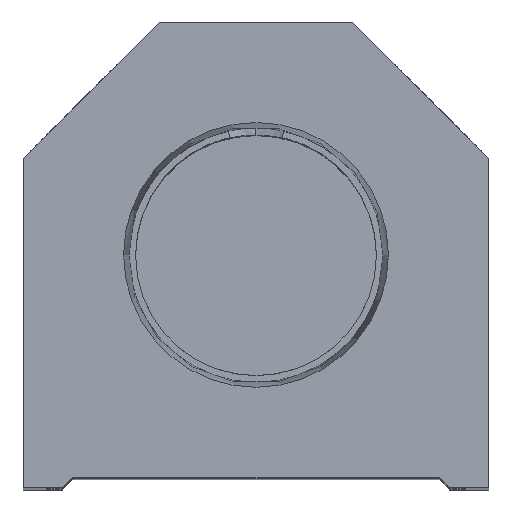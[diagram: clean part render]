
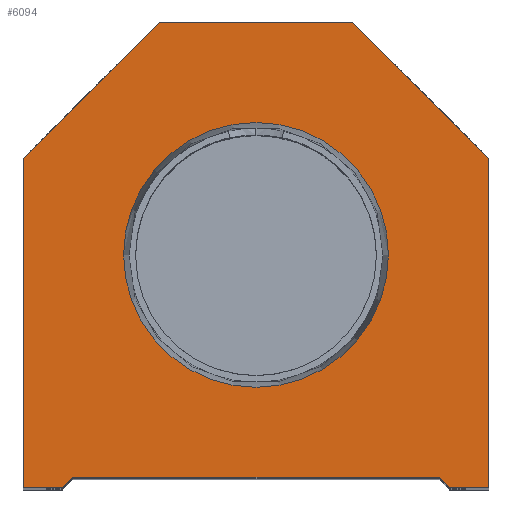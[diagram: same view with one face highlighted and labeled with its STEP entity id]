
A CAD part, top view. The second image highlights one B-rep face of the part: STEP entity #6094.
In plain terms, the highlighted planar face has unit normal (0, 0, 1).
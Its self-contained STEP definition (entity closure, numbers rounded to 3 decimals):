
#63 = CARTESIAN_POINT ( 'NONE',  ( -9.25, 9.25, 0. ) ) ;
#77 = DIRECTION ( 'NONE',  ( 1., 0., 0. ) ) ;
#328 = AXIS2_PLACEMENT_3D ( 'NONE', #2851, #13989, #12378 ) ;
#660 = LINE ( 'NONE', #6131, #2409 ) ;
#1471 = AXIS2_PLACEMENT_3D ( 'NONE', #5581, #15242, #13861 ) ;
#1593 = LINE ( 'NONE', #7046, #4167 ) ;
#1607 = LINE ( 'NONE', #63, #15137 ) ;
#1613 = VERTEX_POINT ( 'NONE', #9915 ) ;
#1962 = VERTEX_POINT ( 'NONE', #3201 ) ;
#1965 = CARTESIAN_POINT ( 'NONE',  ( -22.25, 0., 0. ) ) ;
#2409 = VECTOR ( 'NONE', #3528, 1000. ) ;
#2471 = VERTEX_POINT ( 'NONE', #9883 ) ;
#2851 = CARTESIAN_POINT ( 'NONE',  ( 0., 22.25, 0. ) ) ;
#3201 = CARTESIAN_POINT ( 'NONE',  ( -18.5, 0., 0. ) ) ;
#3223 = CARTESIAN_POINT ( 'NONE',  ( -17.5, 1., 0. ) ) ;
#3412 = CARTESIAN_POINT ( 'NONE',  ( 22.25, 31.5, 0. ) ) ;
#3451 = DIRECTION ( 'NONE',  ( 1., 0., 0. ) ) ;
#3528 = DIRECTION ( 'NONE',  ( -0.707, -0.707, 0. ) ) ;
#3529 = DIRECTION ( 'NONE',  ( 0., 0., 1. ) ) ;
#3749 = CARTESIAN_POINT ( 'NONE',  ( 9.25, 9.25, 0. ) ) ;
#3802 = VERTEX_POINT ( 'NONE', #5560 ) ;
#4167 = VECTOR ( 'NONE', #16693, 1000. ) ;
#4315 = CIRCLE ( 'NONE', #1471, 12.647 ) ;
#4550 = EDGE_CURVE ( 'NONE', #7837, #14365, #8764, .T. ) ;
#5412 = VERTEX_POINT ( 'NONE', #6036 ) ;
#5455 = CIRCLE ( 'NONE', #328, 12.647 ) ;
#5560 = CARTESIAN_POINT ( 'NONE',  ( 18.5, 0., 0. ) ) ;
#5581 = CARTESIAN_POINT ( 'NONE',  ( 0., 22.25, 0. ) ) ;
#5614 = EDGE_LOOP ( 'NONE', ( #15597, #10716 ) ) ;
#5725 = EDGE_CURVE ( 'NONE', #9909, #12762, #12397, .T. ) ;
#5741 = CARTESIAN_POINT ( 'NONE',  ( -17.5, 1., 0. ) ) ;
#5825 = ORIENTED_EDGE ( 'NONE', *, *, #4550, .T. ) ;
#5868 = DIRECTION ( 'NONE',  ( 1., 0., 0. ) ) ;
#6001 = EDGE_CURVE ( 'NONE', #2471, #7837, #13967, .T. ) ;
#6036 = CARTESIAN_POINT ( 'NONE',  ( -22.25, 31.5, 0. ) ) ;
#6094 = ADVANCED_FACE ( 'NONE', ( #9026, #17205 ), #17290, .T. ) ;
#6131 = CARTESIAN_POINT ( 'NONE',  ( -22.25, 31.5, 0. ) ) ;
#6472 = DIRECTION ( 'NONE',  ( -0.707, 0.707, 0. ) ) ;
#6485 = CARTESIAN_POINT ( 'NONE',  ( 0., 0., 0. ) ) ;
#6936 = ORIENTED_EDGE ( 'NONE', *, *, #15476, .T. ) ;
#6965 = DIRECTION ( 'NONE',  ( 0.707, 0.707, 0. ) ) ;
#7023 = ORIENTED_EDGE ( 'NONE', *, *, #7914, .T. ) ;
#7046 = CARTESIAN_POINT ( 'NONE',  ( 17.5, 0., 0. ) ) ;
#7120 = CARTESIAN_POINT ( 'NONE',  ( 22.25, 0., 0. ) ) ;
#7218 = LINE ( 'NONE', #7307, #14798 ) ;
#7307 = CARTESIAN_POINT ( 'NONE',  ( -17.5, 0., 0. ) ) ;
#7837 = VERTEX_POINT ( 'NONE', #3412 ) ;
#7914 = EDGE_CURVE ( 'NONE', #1962, #9909, #1607, .T. ) ;
#8764 = LINE ( 'NONE', #11376, #13406 ) ;
#8957 = CARTESIAN_POINT ( 'NONE',  ( -22.25, 0., 0. ) ) ;
#9001 = CARTESIAN_POINT ( 'NONE',  ( 9.25, 44.5, 0. ) ) ;
#9026 = FACE_BOUND ( 'NONE', #5614, .T. ) ;
#9171 = VECTOR ( 'NONE', #10691, 1000. ) ;
#9304 = VERTEX_POINT ( 'NONE', #8957 ) ;
#9383 = CARTESIAN_POINT ( 'NONE',  ( 17.5, 1., 0. ) ) ;
#9476 = CARTESIAN_POINT ( 'NONE',  ( -12.647, 22.25, 0. ) ) ;
#9599 = VECTOR ( 'NONE', #77, 1000. ) ;
#9838 = CARTESIAN_POINT ( 'NONE',  ( 9.25, 44.5, 0. ) ) ;
#9883 = CARTESIAN_POINT ( 'NONE',  ( 22.25, 0., 0. ) ) ;
#9909 = VERTEX_POINT ( 'NONE', #3223 ) ;
#9915 = CARTESIAN_POINT ( 'NONE',  ( -9.25, 44.5, 0. ) ) ;
#9951 = EDGE_CURVE ( 'NONE', #12762, #3802, #11858, .T. ) ;
#10129 = DIRECTION ( 'NONE',  ( 0., -1., 0. ) ) ;
#10187 = VECTOR ( 'NONE', #12617, 1000. ) ;
#10691 = DIRECTION ( 'NONE',  ( 0.707, -0.707, 0. ) ) ;
#10716 = ORIENTED_EDGE ( 'NONE', *, *, #12783, .F. ) ;
#10820 = ORIENTED_EDGE ( 'NONE', *, *, #13522, .T. ) ;
#11086 = ORIENTED_EDGE ( 'NONE', *, *, #14776, .T. ) ;
#11376 = CARTESIAN_POINT ( 'NONE',  ( 22.25, 31.5, 0. ) ) ;
#11858 = LINE ( 'NONE', #3749, #9171 ) ;
#11862 = LINE ( 'NONE', #1965, #16112 ) ;
#12378 = DIRECTION ( 'NONE',  ( 1., 0., 0. ) ) ;
#12397 = LINE ( 'NONE', #5741, #9599 ) ;
#12537 = DIRECTION ( 'NONE',  ( -1., 0., 0. ) ) ;
#12617 = DIRECTION ( 'NONE',  ( 0., 1., 0. ) ) ;
#12710 = LINE ( 'NONE', #9838, #13619 ) ;
#12735 = VERTEX_POINT ( 'NONE', #9476 ) ;
#12762 = VERTEX_POINT ( 'NONE', #9383 ) ;
#12783 = EDGE_CURVE ( 'NONE', #12735, #14802, #4315, .T. ) ;
#13406 = VECTOR ( 'NONE', #6472, 1000. ) ;
#13504 = CARTESIAN_POINT ( 'NONE',  ( 12.647, 22.25, 0. ) ) ;
#13522 = EDGE_CURVE ( 'NONE', #5412, #9304, #11862, .T. ) ;
#13619 = VECTOR ( 'NONE', #12537, 1000. ) ;
#13772 = ORIENTED_EDGE ( 'NONE', *, *, #15939, .T. ) ;
#13802 = EDGE_CURVE ( 'NONE', #14802, #12735, #5455, .T. ) ;
#13861 = DIRECTION ( 'NONE',  ( 1., 0., 0. ) ) ;
#13925 = AXIS2_PLACEMENT_3D ( 'NONE', #6485, #3529, #3451 ) ;
#13967 = LINE ( 'NONE', #7120, #10187 ) ;
#13989 = DIRECTION ( 'NONE',  ( 0., 0., 1. ) ) ;
#14028 = ORIENTED_EDGE ( 'NONE', *, *, #9951, .T. ) ;
#14365 = VERTEX_POINT ( 'NONE', #9001 ) ;
#14669 = ORIENTED_EDGE ( 'NONE', *, *, #5725, .T. ) ;
#14776 = EDGE_CURVE ( 'NONE', #1613, #5412, #660, .T. ) ;
#14798 = VECTOR ( 'NONE', #5868, 1000. ) ;
#14802 = VERTEX_POINT ( 'NONE', #13504 ) ;
#15065 = EDGE_LOOP ( 'NONE', ( #6936, #7023, #14669, #14028, #13772, #16378, #5825, #17766, #11086, #10820 ) ) ;
#15137 = VECTOR ( 'NONE', #6965, 1000. ) ;
#15242 = DIRECTION ( 'NONE',  ( 0., 0., 1. ) ) ;
#15356 = EDGE_CURVE ( 'NONE', #14365, #1613, #12710, .T. ) ;
#15476 = EDGE_CURVE ( 'NONE', #9304, #1962, #7218, .T. ) ;
#15597 = ORIENTED_EDGE ( 'NONE', *, *, #13802, .F. ) ;
#15939 = EDGE_CURVE ( 'NONE', #3802, #2471, #1593, .T. ) ;
#16112 = VECTOR ( 'NONE', #10129, 1000. ) ;
#16378 = ORIENTED_EDGE ( 'NONE', *, *, #6001, .T. ) ;
#16693 = DIRECTION ( 'NONE',  ( 1., 0., 0. ) ) ;
#17205 = FACE_OUTER_BOUND ( 'NONE', #15065, .T. ) ;
#17290 = PLANE ( 'NONE',  #13925 ) ;
#17766 = ORIENTED_EDGE ( 'NONE', *, *, #15356, .T. ) ;
